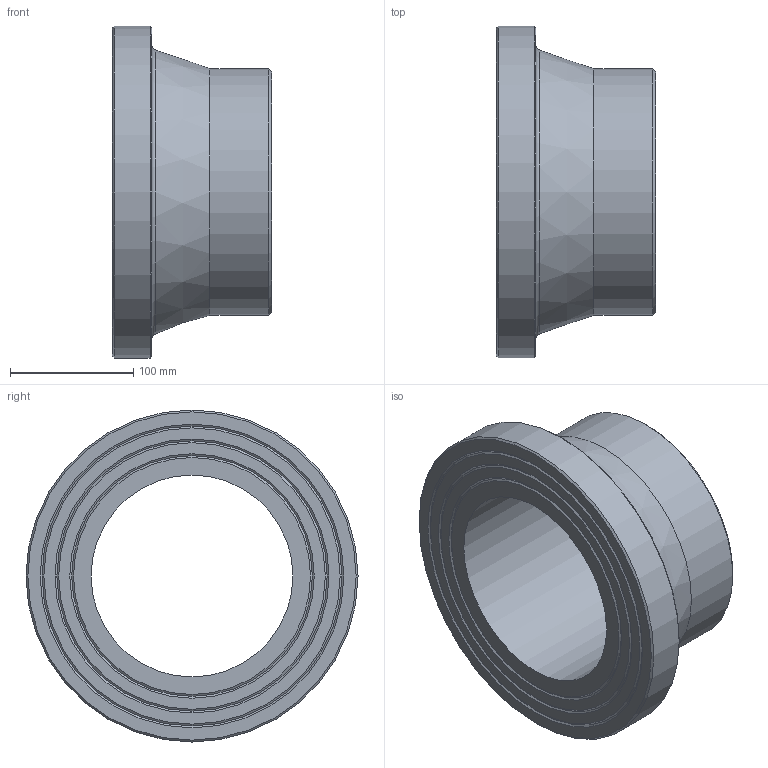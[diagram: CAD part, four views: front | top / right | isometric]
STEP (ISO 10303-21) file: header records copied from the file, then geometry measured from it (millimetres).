
FILE_DESCRIPTION(/* description */ ('Unknown'),/* implementation_level */ '2;1');
FILE_NAME(/* name */ 'CCP200C',/* time_stamp */ '2022-04-04T15:01:51+02:00',/* author */ ('Unknown'),/* organization */ ('Unknown'),/* preprocessor_version */ 'ST-DEVELOPER v18.1',/* originating_system */ 'Solid Edge',/* authorisation */ 'Unknown');
FILE_SCHEMA (('AUTOMOTIVE_DESIGN {1 0 10303 214 3 1 1}'));
Length unit declared in the file: millimetre
Products named in the file (1): CCP200C
Bounding box: 129 x 269 x 269 mm (x, y, z)
Volume: 2396954.3 mm3; surface area: 217735.4 mm2
Topology: 1 solids, 1 shells, 20 faces, 35 edges, 21 vertices
Faces by surface type: cone 10, plane 6, cylinder 3, torus 1
Full cylindrical faces by diameter (mm): 163.6 x1, 200 x1, 269 x1
Entity records: 438 total; most frequent: DIRECTION 82, CARTESIAN_POINT 61, AXIS2_PLACEMENT_3D 41, ORIENTED_EDGE 40, EDGE_LOOP 40, FACE_BOUND 40, EDGE_CURVE 20, VERTEX_POINT 20
